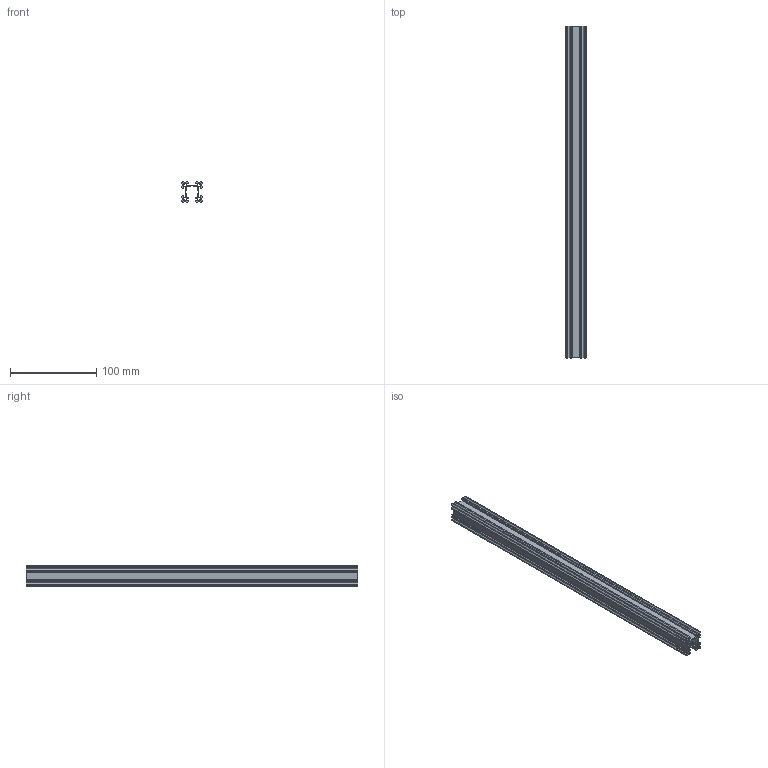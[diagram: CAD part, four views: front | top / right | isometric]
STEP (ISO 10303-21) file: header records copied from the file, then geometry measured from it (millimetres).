
FILE_DESCRIPTION (( 'STEP AP203' ), '1' );
FILE_NAME ('1118-0024-0384.STEP', '2017-09-21T19:08:27', ( '' ), ( '' ), 'SwSTEP 2.0', 'SolidWorks 2016', '' );
FILE_SCHEMA (( 'CONFIG_CONTROL_DESIGN' ));
Products named in the file (1): 1118-0024-0384
Bounding box: 24 x 384 x 24 mm (x, y, z)
Volume: 71622.4 mm3; surface area: 90286.6 mm2
Topology: 1 solids, 1 shells, 801 faces, 2389 edges, 1590 vertices
Faces by surface type: cylinder 676, plane 89, cone 20, bspline 16
Entity records: 49920 total; most frequent: CARTESIAN_POINT 32205, ORIENTED_EDGE 4778, DIRECTION 2745, EDGE_CURVE 2389, VERTEX_POINT 1590, LINE 925, VECTOR 925, AXIS2_PLACEMENT_3D 910
